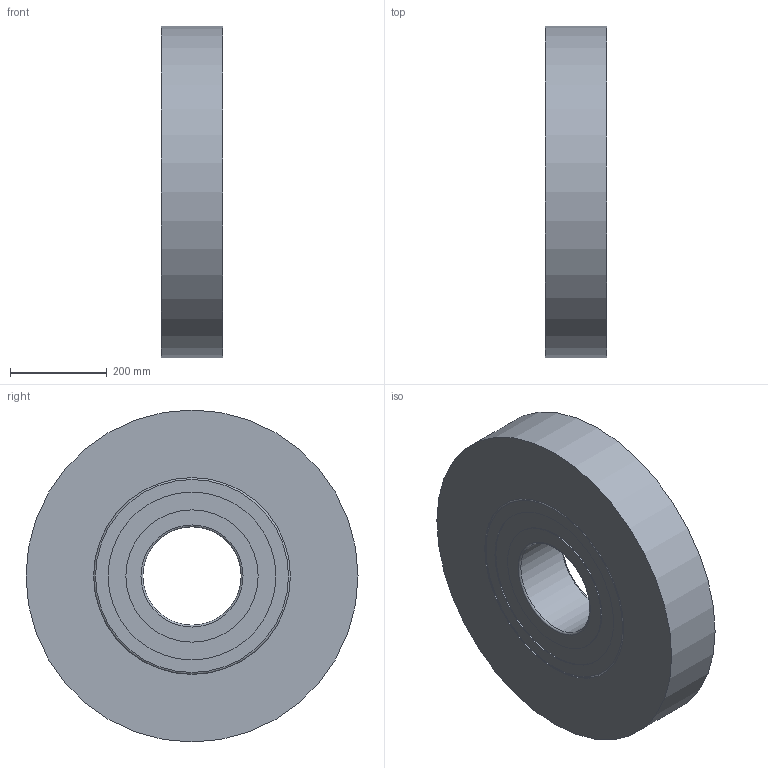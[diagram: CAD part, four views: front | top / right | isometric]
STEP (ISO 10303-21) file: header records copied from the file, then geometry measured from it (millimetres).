
FILE_DESCRIPTION((''),'1');
FILE_NAME('H:/図庫/国内ﾕﾆｯﾄ/ｶﾀﾛｸﾞ/ｺﾞﾑ直巻/ホームページ用ＣＡＤ図面/update用/3', '2017-07-14T09:09:07',(''), (''), 'KCM Version 1.1.1442.0', 'Kubotek KeyCreator', '');
FILE_SCHEMA(('AUTOMOTIVE_DESIGN'));
Length unit declared in the file: inch
Bounding box: 127 x 685.8 x 685.8 mm (x, y, z)
Surface area: 1051701.2 mm2 (no closed solid volume)
Topology: 0 solids, 20 shells, 20 faces, 68 edges, 56 vertices
Faces by surface type: cylinder 8, plane 8, torus 4
Full cylindrical faces by diameter (mm): 203.2 x1, 273.05 x2, 346.71 x2, 406.4 x2, 685.8 x1
Entity records: 790 total; most frequent: DIRECTION 154, CARTESIAN_POINT 137, ORIENTED_EDGE 80, AXIS2_PLACEMENT_3D 73, EDGE_CURVE 68, VERTEX_POINT 56, CIRCLE 52, EDGE_LOOP 28
